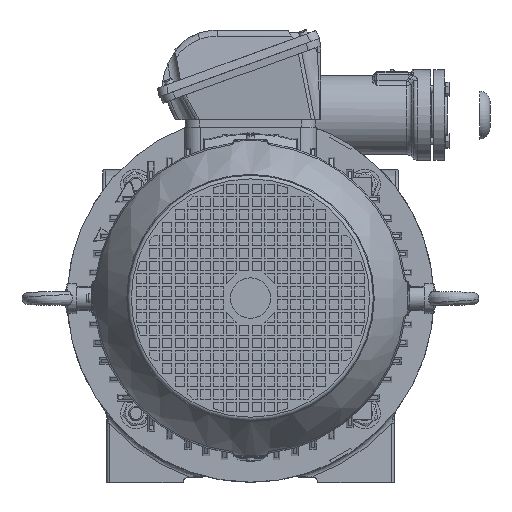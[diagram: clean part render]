
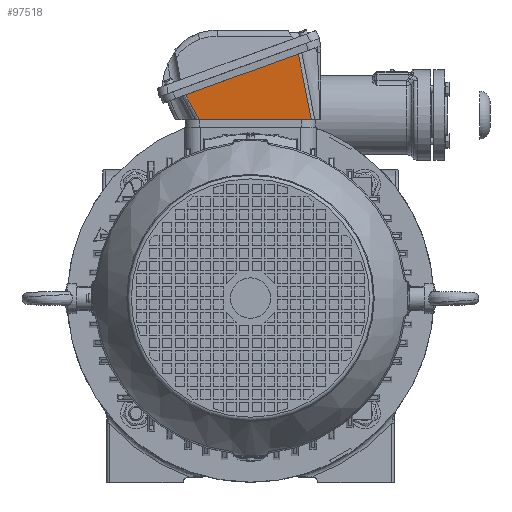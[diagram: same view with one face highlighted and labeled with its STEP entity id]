
A CAD part, top view. The second image highlights one B-rep face of the part: STEP entity #97518.
In plain terms, the highlighted planar face has unit normal (0.036, -0.098, 0.995).
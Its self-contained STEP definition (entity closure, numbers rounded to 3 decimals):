
#3410=B_SPLINE_CURVE_WITH_KNOTS('',3,(#164551,#164552,#164553,#164554),
 .UNSPECIFIED.,.F.,.F.,(4,4),(0.,0.023),.UNSPECIFIED.);
#3411=B_SPLINE_CURVE_WITH_KNOTS('',3,(#164555,#164556,#164557,#164558,#164559,
#164560,#164561,#164562,#164563,#164564,#164565,#164566,#164567),
 .UNSPECIFIED.,.F.,.F.,(4,3,3,3,4),(0.,0.027,0.027,
0.05,0.055),.UNSPECIFIED.);
#14083=FACE_OUTER_BOUND('',#19977,.T.);
#19977=EDGE_LOOP('',(#76801,#76802,#76803,#76804));
#27835=LINE('',#164453,#35127);
#27839=LINE('',#164550,#35131);
#35127=VECTOR('',#120078,1000.);
#35131=VECTOR('',#120092,1000.);
#45467=VERTEX_POINT('',#164451);
#45468=VERTEX_POINT('',#164452);
#45483=VERTEX_POINT('',#164548);
#45484=VERTEX_POINT('',#164549);
#56589=EDGE_CURVE('',#45467,#45468,#27835,.T.);
#56605=EDGE_CURVE('',#45483,#45484,#27839,.T.);
#56606=EDGE_CURVE('',#45484,#45468,#3410,.T.);
#56607=EDGE_CURVE('',#45467,#45483,#3411,.T.);
#76801=ORIENTED_EDGE('',*,*,#56605,.T.);
#76802=ORIENTED_EDGE('',*,*,#56606,.T.);
#76803=ORIENTED_EDGE('',*,*,#56589,.F.);
#76804=ORIENTED_EDGE('',*,*,#56607,.T.);
#93922=PLANE('',#104010);
#97518=ADVANCED_FACE('',(#14083),#93922,.T.);
#104010=AXIS2_PLACEMENT_3D('',#164547,#120090,#120091);
#120078=DIRECTION('',(-0.999,0.,0.036));
#120090=DIRECTION('center_axis',(0.036,-0.098,
0.995));
#120091=DIRECTION('ref_axis',(0.,0.995,0.098));
#120092=DIRECTION('',(-0.94,-0.342,0.));
#164451=CARTESIAN_POINT('',(49.714,146.5,334.648));
#164452=CARTESIAN_POINT('',(-41.969,146.5,337.944));
#164453=CARTESIAN_POINT('',(52.77,146.5,334.539));
#164547=CARTESIAN_POINT('Origin',(53.,211.5,340.95));
#164548=CARTESIAN_POINT('',(39.196,200.091,340.319));
#164549=CARTESIAN_POINT('',(-53.103,166.497,340.319));
#164550=CARTESIAN_POINT('',(55.052,205.862,340.319));
#164551=CARTESIAN_POINT('Ctrl Pts',(-53.103,166.497,
340.319));
#164552=CARTESIAN_POINT('Ctrl Pts',(-49.364,159.847,
339.528));
#164553=CARTESIAN_POINT('Ctrl Pts',(-45.658,153.178,
338.736));
#164554=CARTESIAN_POINT('Ctrl Pts',(-41.969,146.5,337.944));
#164555=CARTESIAN_POINT('Ctrl Pts',(49.714,146.5,334.648));
#164556=CARTESIAN_POINT('Ctrl Pts',(47.933,155.339,335.585));
#164557=CARTESIAN_POINT('Ctrl Pts',(46.165,164.18,336.522));
#164558=CARTESIAN_POINT('Ctrl Pts',(44.422,173.026,337.459));
#164559=CARTESIAN_POINT('Ctrl Pts',(44.406,173.111,337.467));
#164560=CARTESIAN_POINT('Ctrl Pts',(44.389,173.195,337.476));
#164561=CARTESIAN_POINT('Ctrl Pts',(44.373,173.279,337.485));
#164562=CARTESIAN_POINT('Ctrl Pts',(42.919,180.657,338.266));
#164563=CARTESIAN_POINT('Ctrl Pts',(41.482,188.038,339.047));
#164564=CARTESIAN_POINT('Ctrl Pts',(40.078,195.426,339.827));
#164565=CARTESIAN_POINT('Ctrl Pts',(39.782,196.981,339.991));
#164566=CARTESIAN_POINT('Ctrl Pts',(39.488,198.535,340.155));
#164567=CARTESIAN_POINT('Ctrl Pts',(39.196,200.091,340.319));
